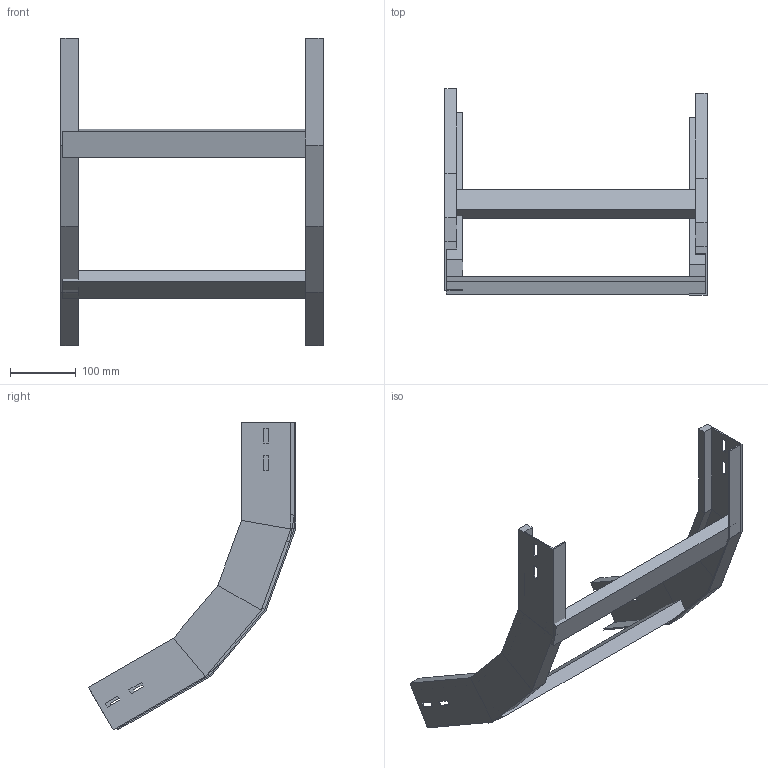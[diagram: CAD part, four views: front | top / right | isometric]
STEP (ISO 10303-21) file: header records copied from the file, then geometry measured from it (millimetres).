
FILE_DESCRIPTION (( 'STEP AP214' ), '1' );
FILE_NAME ('A2X40B3C400XX.step', '2025-04-02T09:28:26', ( '' ), ( '' ), 'SwSTEP 2.0', 'SolidWorks 2023', '' );
FILE_SCHEMA (( 'AUTOMOTIVE_DESIGN' ));
Length unit declared in the file: millimetre
Products named in the file (3): A2X40B3C400XX; TRAVERSINO_400; LONGH.SALITA_60°_H75_R300
Assembly tree (4 placements, depth 2):
  A2X40B3C400XX
    LONGH.SALITA_60°_H75_R300  x2
    TRAVERSINO_400  x2
Bounding box: 400 x 315.85 x 469.15 mm (x, y, z)
Volume: 1061106 mm3; surface area: 360303.6 mm2
Topology: 4 solids, 4 shells, 112 faces, 264 edges, 160 vertices
Faces by surface type: plane 112
Entity records: 1664 total; most frequent: CARTESIAN_POINT 275, ORIENTED_EDGE 264, DIRECTION 258, EDGE_CURVE 132, LINE 132, VECTOR 132, VERTEX_POINT 80, EDGE_LOOP 64
